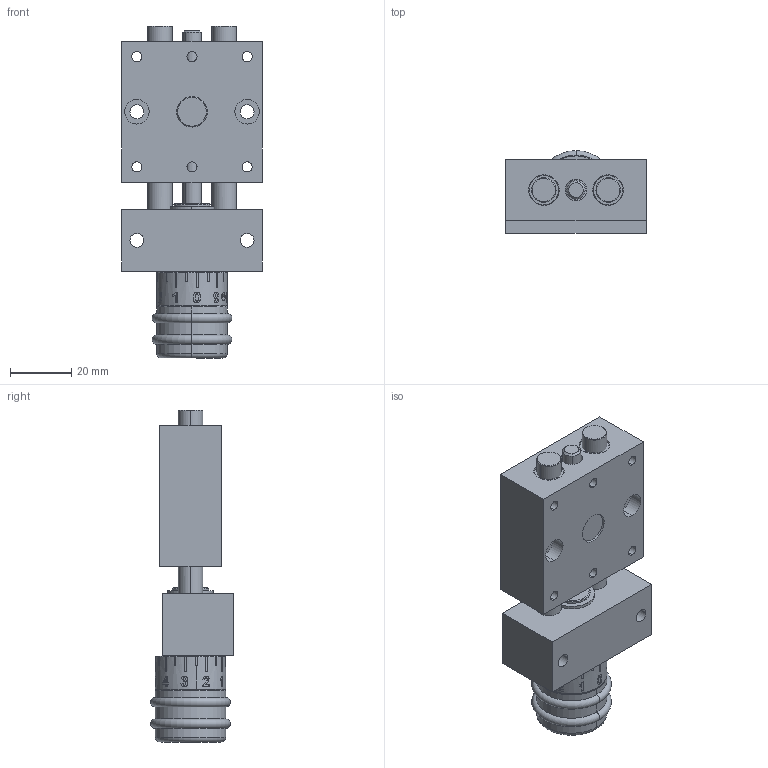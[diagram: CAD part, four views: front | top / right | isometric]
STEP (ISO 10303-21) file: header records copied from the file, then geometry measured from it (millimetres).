
FILE_DESCRIPTION (( 'STEP AP203' ), '1' );
FILE_NAME ('PT1408-SK-Positioniertisch.STEP', '2016-01-15T17:17:46', ( '' ), ( '' ), 'SwSTEP 2.0', 'SolidWorks 2014', '' );
FILE_SCHEMA (( 'CONFIG_CONTROL_DESIGN' ));
Length unit declared in the file: millimetre
Products named in the file (3): PT1408-000-01-Festteil-SK; PT08-000-02-Schlitten-komplett_n_Standard; PT1408-SK-Positioniertisch
Assembly tree (2 placements, depth 2):
  PT1408-SK-Positioniertisch
    PT1408-000-01-Festteil-SK
    PT08-000-02-Schlitten-komplett_n_Standard
Bounding box: 46 x 27.02 x 108.39 mm (x, y, z)
Volume: 71348.3 mm3; surface area: 29200.8 mm2
Topology: 2 solids, 5 shells, 529 faces, 1340 edges, 866 vertices
Faces by surface type: plane 187, cylinder 146, bspline 102, cone 72, torus 20, sphere 2
Entity records: 30954 total; most frequent: CARTESIAN_POINT 18527, ORIENTED_EDGE 2672, DIRECTION 2258, EDGE_CURVE 1336, AXIS2_PLACEMENT_3D 892, VERTEX_POINT 866, EDGE_LOOP 616, FACE_OUTER_BOUND 529
